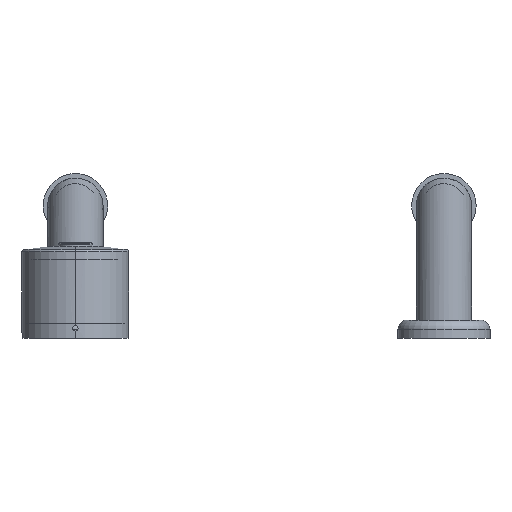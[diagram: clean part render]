
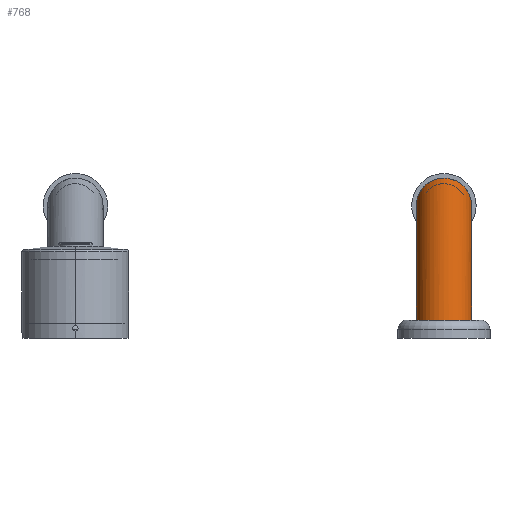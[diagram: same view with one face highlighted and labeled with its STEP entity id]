
A CAD part, front view. The second image highlights one B-rep face of the part: STEP entity #768.
In plain terms, the highlighted cylindrical face has radius 15 mm (diameter 30 mm), a partial arc.
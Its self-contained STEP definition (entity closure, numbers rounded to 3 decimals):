
#174 = EDGE_CURVE ( 'NONE', #2755, #2794, #5022, .T. ) ;
#438 = DIRECTION ( 'NONE',  ( 0., 0., 1. ) ) ;
#676 = EDGE_CURVE ( 'NONE', #2794, #3565, #2572, .T. ) ;
#768 = ADVANCED_FACE ( 'NONE', ( #4403 ), #3571, .T. ) ;
#883 =( BOUNDED_CURVE ( )  B_SPLINE_CURVE ( 3, ( #4672, #2219, #2169, #5044 ),
 .UNSPECIFIED., .F., .F. ) 
 B_SPLINE_CURVE_WITH_KNOTS ( ( 4, 4 ),
 ( 4.712, 6.283 ),
 .UNSPECIFIED. ) 
 CURVE ( )  GEOMETRIC_REPRESENTATION_ITEM ( )  RATIONAL_B_SPLINE_CURVE ( ( 1., 0.805, 0.805, 1. ) ) 
 REPRESENTATION_ITEM ( '' )  );
#983 = AXIS2_PLACEMENT_3D ( 'NONE', #1195, #2464, #3210 ) ;
#1105 = DIRECTION ( 'NONE',  ( 0., 0., 1. ) ) ;
#1195 = CARTESIAN_POINT ( 'NONE',  ( 0., 0., 62. ) ) ;
#1380 = ORIENTED_EDGE ( 'NONE', *, *, #676, .T. ) ;
#1460 = CARTESIAN_POINT ( 'NONE',  ( 15., 0., 0. ) ) ;
#1461 = CARTESIAN_POINT ( 'NONE',  ( 0., -15., -15. ) ) ;
#1558 = CARTESIAN_POINT ( 'NONE',  ( 0., 0., -15. ) ) ;
#1591 = EDGE_CURVE ( 'NONE', #2272, #2755, #883, .T. ) ;
#1871 = CARTESIAN_POINT ( 'NONE',  ( 15., -8.787, -8.787 ) ) ;
#1999 = EDGE_CURVE ( 'NONE', #2272, #2116, #2161, .T. ) ;
#2116 = VERTEX_POINT ( 'NONE', #3022 ) ;
#2161 = LINE ( 'NONE', #3776, #5067 ) ;
#2169 = CARTESIAN_POINT ( 'NONE',  ( -8.787, -15., -15. ) ) ;
#2219 = CARTESIAN_POINT ( 'NONE',  ( -15., -8.787, -8.787 ) ) ;
#2272 = VERTEX_POINT ( 'NONE', #3694 ) ;
#2464 = DIRECTION ( 'NONE',  ( 0., 0., 1. ) ) ;
#2572 = LINE ( 'NONE', #3348, #3124 ) ;
#2592 = ORIENTED_EDGE ( 'NONE', *, *, #1591, .T. ) ;
#2755 = VERTEX_POINT ( 'NONE', #3451 ) ;
#2768 = AXIS2_PLACEMENT_3D ( 'NONE', #1558, #1105, #4804 ) ;
#2794 = VERTEX_POINT ( 'NONE', #1460 ) ;
#2841 = CARTESIAN_POINT ( 'NONE',  ( 15., 0., 62. ) ) ;
#3022 = CARTESIAN_POINT ( 'NONE',  ( -15., 0., 62. ) ) ;
#3083 = CARTESIAN_POINT ( 'NONE',  ( 8.787, -15., -15. ) ) ;
#3124 = VECTOR ( 'NONE', #4628, 1000. ) ;
#3210 = DIRECTION ( 'NONE',  ( 1., 0., 0. ) ) ;
#3348 = CARTESIAN_POINT ( 'NONE',  ( 15., 0., -15. ) ) ;
#3451 = CARTESIAN_POINT ( 'NONE',  ( 0., -15., -15. ) ) ;
#3565 = VERTEX_POINT ( 'NONE', #2841 ) ;
#3571 = CYLINDRICAL_SURFACE ( 'NONE', #2768, 15. ) ;
#3694 = CARTESIAN_POINT ( 'NONE',  ( -15., 0., 0. ) ) ;
#3714 = EDGE_LOOP ( 'NONE', ( #3971, #2592, #4715, #1380, #5115 ) ) ;
#3776 = CARTESIAN_POINT ( 'NONE',  ( -15., 0., -15. ) ) ;
#3971 = ORIENTED_EDGE ( 'NONE', *, *, #1999, .F. ) ;
#4403 = FACE_OUTER_BOUND ( 'NONE', #3714, .T. ) ;
#4628 = DIRECTION ( 'NONE',  ( 0., 0., 1. ) ) ;
#4672 = CARTESIAN_POINT ( 'NONE',  ( -15., 0., 0. ) ) ;
#4715 = ORIENTED_EDGE ( 'NONE', *, *, #174, .T. ) ;
#4804 = DIRECTION ( 'NONE',  ( 1., 0., 0. ) ) ;
#4819 = CARTESIAN_POINT ( 'NONE',  ( 15., 0., 0. ) ) ;
#4948 = EDGE_CURVE ( 'NONE', #2116, #3565, #5142, .T. ) ;
#5022 =( BOUNDED_CURVE ( )  B_SPLINE_CURVE ( 3, ( #1461, #3083, #1871, #4819 ),
 .UNSPECIFIED., .F., .T. ) 
 B_SPLINE_CURVE_WITH_KNOTS ( ( 4, 4 ),
 ( 0., 1.571 ),
 .UNSPECIFIED. ) 
 CURVE ( )  GEOMETRIC_REPRESENTATION_ITEM ( )  RATIONAL_B_SPLINE_CURVE ( ( 1., 0.805, 0.805, 1. ) ) 
 REPRESENTATION_ITEM ( '' )  );
#5044 = CARTESIAN_POINT ( 'NONE',  ( 0., -15., -15. ) ) ;
#5067 = VECTOR ( 'NONE', #438, 1000. ) ;
#5115 = ORIENTED_EDGE ( 'NONE', *, *, #4948, .F. ) ;
#5142 = CIRCLE ( 'NONE', #983, 15. ) ;
